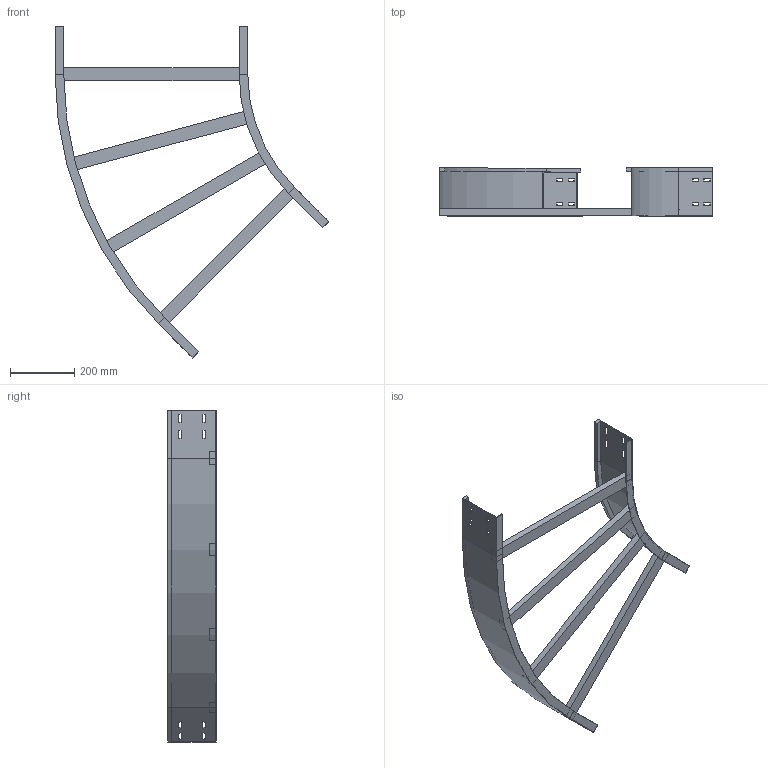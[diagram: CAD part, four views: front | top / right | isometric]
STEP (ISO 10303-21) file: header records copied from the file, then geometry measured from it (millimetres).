
FILE_DESCRIPTION (( 'STEP AP214' ), '1' );
FILE_NAME ('11J5F600.step', '2025-02-21T16:24:18', ( '' ), ( '' ), 'SwSTEP 2.0', 'SolidWorks 2023', '' );
FILE_SCHEMA (( 'AUTOMOTIVE_DESIGN' ));
Length unit declared in the file: millimetre
Products named in the file (4): 11J5F600; LONGH.ESTERNO 45°_H150_R500+600; LONGH.INTERNO 45°_H150_R500; TRAVERSINO_600
Assembly tree (6 placements, depth 2):
  11J5F600
    LONGH.INTERNO 45°_H150_R500
    LONGH.ESTERNO 45°_H150_R500+600
    TRAVERSINO_600  x4
Bounding box: 852.51 x 150 x 1033.88 mm (x, y, z)
Volume: 2930137.3 mm3; surface area: 1008749.9 mm2
Topology: 6 solids, 6 shells, 140 faces, 352 edges, 224 vertices
Faces by surface type: plane 132, cylinder 8
Entity records: 3829 total; most frequent: CARTESIAN_POINT 647, ORIENTED_EDGE 632, DIRECTION 594, EDGE_CURVE 316, LINE 300, VECTOR 300, VERTEX_POINT 200, EDGE_LOOP 154
